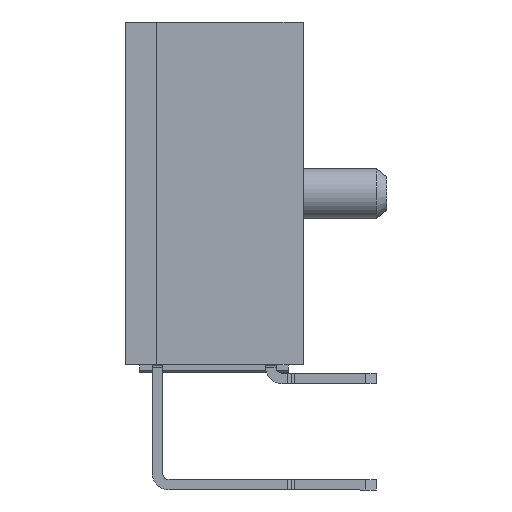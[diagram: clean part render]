
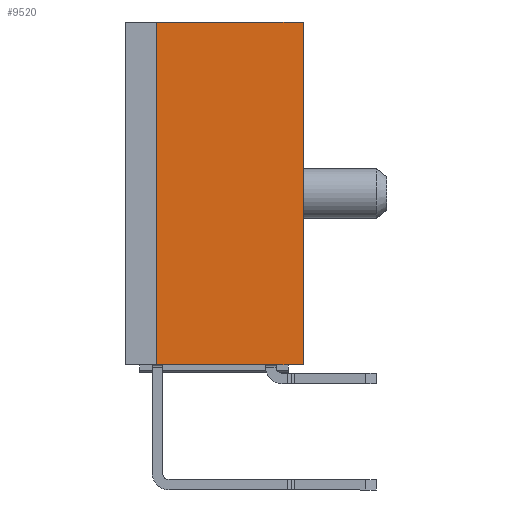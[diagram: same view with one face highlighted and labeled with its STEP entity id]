
A CAD part, left-side view. The second image highlights one B-rep face of the part: STEP entity #9520.
In plain terms, the highlighted planar face has unit normal (-1, 0, 0).
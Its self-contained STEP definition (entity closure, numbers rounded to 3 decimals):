
#213 = VERTEX_POINT ( 'NONE', #14224 ) ;
#303 = VERTEX_POINT ( 'NONE', #14186 ) ;
#2182 = LINE ( 'NONE', #2183, #2832 ) ;
#2183 = CARTESIAN_POINT ( 'NONE',  ( -30.71, 2.75, 8.2 ) ) ;
#2200 = DIRECTION ( 'NONE',  ( 0., 0., 1. ) ) ;
#2832 = VECTOR ( 'NONE', #2200, 1000. ) ;
#3272 = AXIS2_PLACEMENT_3D ( 'NONE', #13947, #13941, #13940 ) ;
#9520 = ADVANCED_FACE ( 'NONE', ( #13944 ), #13943, .F. ) ;
#11533 = DIRECTION ( 'NONE',  ( 0., -1., 0. ) ) ;
#11537 = CARTESIAN_POINT ( 'NONE',  ( -30.71, 4.25, -8.2 ) ) ;
#11540 = DIRECTION ( 'NONE',  ( 0., -1., 0. ) ) ;
#11549 = CARTESIAN_POINT ( 'NONE',  ( -30.71, -4.25, 8.2 ) ) ;
#11556 = DIRECTION ( 'NONE',  ( 0., 0., 1. ) ) ;
#11682 = LINE ( 'NONE', #11549, #21431 ) ;
#11683 = LINE ( 'NONE', #11692, #21429 ) ;
#11684 = LINE ( 'NONE', #11537, #21433 ) ;
#11692 = CARTESIAN_POINT ( 'NONE',  ( -30.71, -4.25, 8.2 ) ) ;
#13940 = DIRECTION ( 'NONE',  ( 0., 1., 0. ) ) ;
#13941 = DIRECTION ( 'NONE',  ( 1., 0., 0. ) ) ;
#13943 = PLANE ( 'NONE',  #3272 ) ;
#13944 = FACE_OUTER_BOUND ( 'NONE', #16604, .T. ) ;
#13947 = CARTESIAN_POINT ( 'NONE',  ( -30.71, 4.25, 8.2 ) ) ;
#14186 = CARTESIAN_POINT ( 'NONE',  ( -30.71, 2.75, -8.2 ) ) ;
#14224 = CARTESIAN_POINT ( 'NONE',  ( -30.71, 2.75, 8.2 ) ) ;
#14308 = ORIENTED_EDGE ( 'NONE', *, *, #19312, .T. ) ;
#14309 = ORIENTED_EDGE ( 'NONE', *, *, #20001, .F. ) ;
#14310 = ORIENTED_EDGE ( 'NONE', *, *, #19311, .F. ) ;
#14311 = ORIENTED_EDGE ( 'NONE', *, *, #19310, .T. ) ;
#16604 = EDGE_LOOP ( 'NONE', ( #14311, #14310, #14309, #14308 ) ) ;
#19310 = EDGE_CURVE ( 'NONE', #19574, #19582, #11683, .T. ) ;
#19311 = EDGE_CURVE ( 'NONE', #213, #19582, #11682, .T. ) ;
#19312 = EDGE_CURVE ( 'NONE', #303, #19574, #11684, .T. ) ;
#19574 = VERTEX_POINT ( 'NONE', #21795 ) ;
#19582 = VERTEX_POINT ( 'NONE', #21801 ) ;
#20001 = EDGE_CURVE ( 'NONE', #303, #213, #2182, .T. ) ;
#21429 = VECTOR ( 'NONE', #11556, 1000. ) ;
#21431 = VECTOR ( 'NONE', #11540, 1000. ) ;
#21433 = VECTOR ( 'NONE', #11533, 1000. ) ;
#21795 = CARTESIAN_POINT ( 'NONE',  ( -30.71, -4.25, -8.2 ) ) ;
#21801 = CARTESIAN_POINT ( 'NONE',  ( -30.71, -4.25, 8.2 ) ) ;
